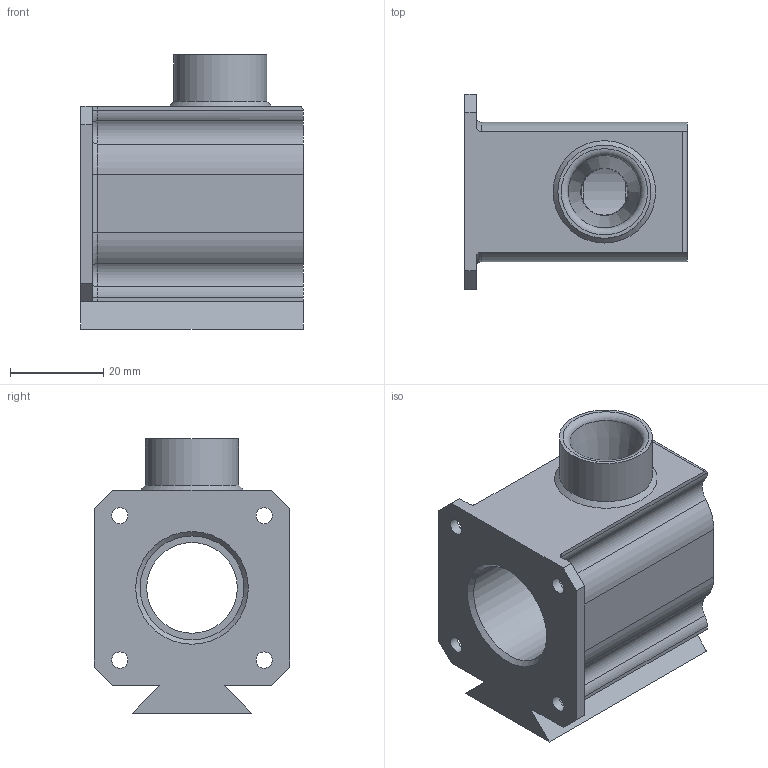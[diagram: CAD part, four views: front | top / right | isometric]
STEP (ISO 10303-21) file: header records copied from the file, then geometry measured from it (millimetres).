
FILE_DESCRIPTION(('FreeCAD Model'),'2;1');
FILE_NAME('Open CASCADE Shape Model','2024-11-17T12:06:45',(''),(''), 'Open CASCADE STEP processor 7.6','FreeCAD','Unknown');
FILE_SCHEMA(('AUTOMOTIVE_DESIGN { 1 0 10303 214 1 1 1 1 }'));
Length unit declared in the file: millimetre
Products named in the file (1): Body mod Awacs_v2
Bounding box: 47.8 x 42 x 58.9 mm (x, y, z)
Volume: 44314.7 mm3; surface area: 15687.2 mm2
Topology: 1 solids, 1 shells, 85 faces, 216 edges, 135 vertices
Faces by surface type: cylinder 30, plane 25, torus 18, cone 8, bspline 4
Full cylindrical faces by diameter (mm): 3.5 x4, 10 x1, 19.5 x2, 20 x1, 22.3 x2
Entity records: 2866 total; most frequent: CARTESIAN_POINT 707, DIRECTION 479, ORIENTED_EDGE 432, EDGE_CURVE 216, AXIS2_PLACEMENT_3D 192, VERTEX_POINT 135, CIRCLE 110, FACE_BOUND 99
